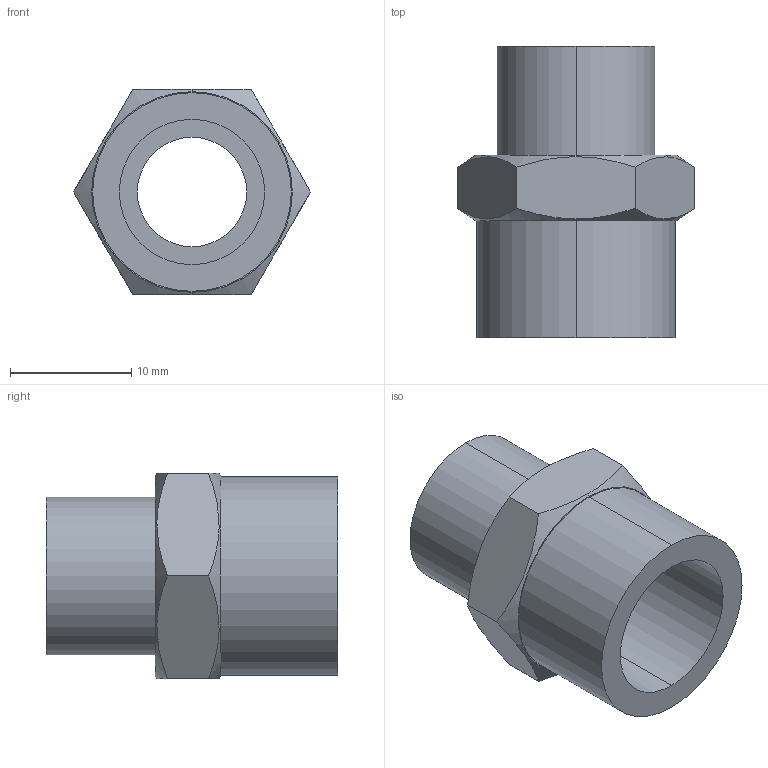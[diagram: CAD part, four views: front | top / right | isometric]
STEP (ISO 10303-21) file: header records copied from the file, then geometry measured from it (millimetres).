
FILE_DESCRIPTION (( 'STEP AP203' ), '1' );
FILE_NAME ('TTY-YG03-02P.STEP', '2024-01-19T03:10:41', ( 'E.mc' ), ( 'E.mc' ), 'SwSTEP 2.0', 'SolidWorks 2017', '' );
FILE_SCHEMA (( 'CONFIG_CONTROL_DESIGN' ));
Length unit declared in the file: millimetre
Products named in the file (1): TTY-YG03-02P
Bounding box: 19.56 x 24.06 x 16.94 mm (x, y, z)
Volume: 2353.3 mm3; surface area: 2323 mm2
Topology: 1 solids, 1 shells, 23 faces, 54 edges, 36 vertices
Faces by surface type: plane 11, cylinder 8, cone 4
Entity records: 853 total; most frequent: CARTESIAN_POINT 250, ORIENTED_EDGE 108, DIRECTION 106, EDGE_CURVE 54, AXIS2_PLACEMENT_3D 44, VERTEX_POINT 36, EDGE_LOOP 28, ADVANCED_FACE 23
